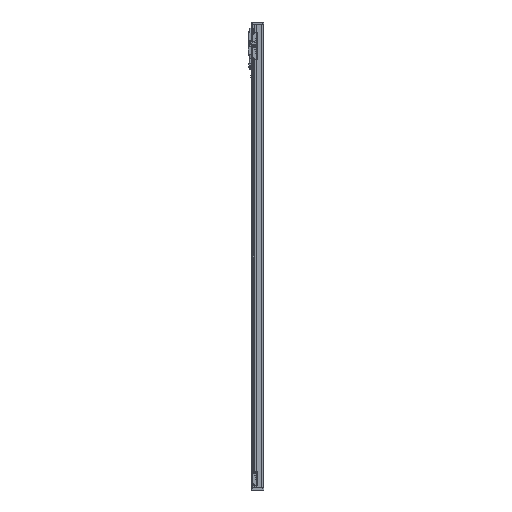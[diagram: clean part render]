
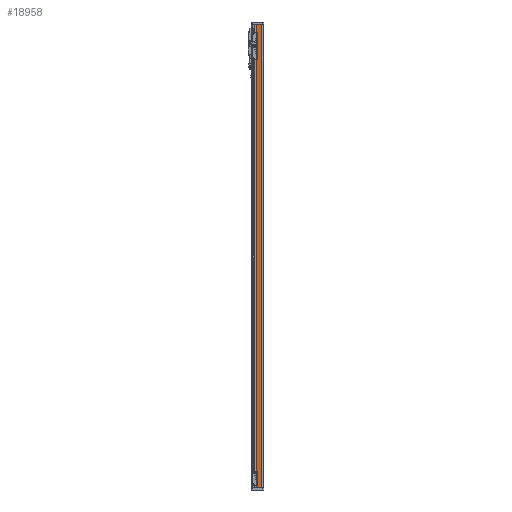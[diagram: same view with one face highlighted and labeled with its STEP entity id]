
A CAD part, left-side view. The second image highlights one B-rep face of the part: STEP entity #18958.
In plain terms, the highlighted planar face has unit normal (-1, 0, 0).
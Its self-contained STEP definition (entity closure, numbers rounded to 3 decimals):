
#152 = PLANE('',#153);
#153 = AXIS2_PLACEMENT_3D('',#154,#155,#156);
#154 = CARTESIAN_POINT('',(0.,0.,900.));
#155 = DIRECTION('',(-0.,0.,1.));
#156 = DIRECTION('',(1.,0.,0.));
#817 = PLANE('',#818);
#818 = AXIS2_PLACEMENT_3D('',#819,#820,#821);
#819 = CARTESIAN_POINT('',(0.,0.,-900.));
#820 = DIRECTION('',(-0.,0.,1.));
#821 = DIRECTION('',(1.,0.,0.));
#10703 = PLANE('',#10704);
#10704 = AXIS2_PLACEMENT_3D('',#10705,#10706,#10707);
#10705 = CARTESIAN_POINT('',(-27.5,-17.,895.));
#10706 = DIRECTION('',(-0.707,0.707,0.));
#10707 = DIRECTION('',(0.,0.,1.));
#11105 = VERTEX_POINT('',#11106);
#11106 = CARTESIAN_POINT('',(-27.1,4.6,900.));
#11120 = PLANE('',#11121);
#11121 = AXIS2_PLACEMENT_3D('',#11122,#11123,#11124);
#11122 = CARTESIAN_POINT('',(-27.1,4.6,895.));
#11123 = DIRECTION('',(-0.707,-0.707,0.));
#11124 = DIRECTION('',(0.,0.,1.));
#11132 = EDGE_CURVE('',#11105,#11133,#11135,.T.);
#11133 = VERTEX_POINT('',#11134);
#11134 = CARTESIAN_POINT('',(-27.1,-16.6,900.));
#11135 = SURFACE_CURVE('',#11136,(#11140,#11147),.PCURVE_S1.);
#11136 = LINE('',#11137,#11138);
#11137 = CARTESIAN_POINT('',(-27.1,8.,900.));
#11138 = VECTOR('',#11139,1.);
#11139 = DIRECTION('',(0.,-1.,0.));
#11140 = PCURVE('',#152,#11141);
#11141 = DEFINITIONAL_REPRESENTATION('',(#11142),#11146);
#11142 = LINE('',#11143,#11144);
#11143 = CARTESIAN_POINT('',(-27.1,8.));
#11144 = VECTOR('',#11145,1.);
#11145 = DIRECTION('',(0.,-1.));
#11146 = ( GEOMETRIC_REPRESENTATION_CONTEXT(2) 
PARAMETRIC_REPRESENTATION_CONTEXT() REPRESENTATION_CONTEXT('2D SPACE',''
  ) );
#11147 = PCURVE('',#11148,#11153);
#11148 = PLANE('',#11149);
#11149 = AXIS2_PLACEMENT_3D('',#11150,#11151,#11152);
#11150 = CARTESIAN_POINT('',(-27.1,8.,895.));
#11151 = DIRECTION('',(1.,0.,0.));
#11152 = DIRECTION('',(0.,1.,0.));
#11153 = DEFINITIONAL_REPRESENTATION('',(#11154),#11158);
#11154 = LINE('',#11155,#11156);
#11155 = CARTESIAN_POINT('',(0.,5.));
#11156 = VECTOR('',#11157,1.);
#11157 = DIRECTION('',(-1.,0.));
#11158 = ( GEOMETRIC_REPRESENTATION_CONTEXT(2) 
PARAMETRIC_REPRESENTATION_CONTEXT() REPRESENTATION_CONTEXT('2D SPACE',''
  ) );
#12172 = VERTEX_POINT('',#12173);
#12173 = CARTESIAN_POINT('',(-27.1,-16.6,-900.));
#12194 = EDGE_CURVE('',#12172,#12195,#12197,.T.);
#12195 = VERTEX_POINT('',#12196);
#12196 = CARTESIAN_POINT('',(-27.1,4.6,-900.));
#12197 = SURFACE_CURVE('',#12198,(#12202,#12209),.PCURVE_S1.);
#12198 = LINE('',#12199,#12200);
#12199 = CARTESIAN_POINT('',(-27.1,0.,-900.));
#12200 = VECTOR('',#12201,1.);
#12201 = DIRECTION('',(0.,1.,0.));
#12202 = PCURVE('',#817,#12203);
#12203 = DEFINITIONAL_REPRESENTATION('',(#12204),#12208);
#12204 = LINE('',#12205,#12206);
#12205 = CARTESIAN_POINT('',(-27.1,0.));
#12206 = VECTOR('',#12207,1.);
#12207 = DIRECTION('',(0.,1.));
#12208 = ( GEOMETRIC_REPRESENTATION_CONTEXT(2) 
PARAMETRIC_REPRESENTATION_CONTEXT() REPRESENTATION_CONTEXT('2D SPACE',''
  ) );
#12209 = PCURVE('',#11148,#12210);
#12210 = DEFINITIONAL_REPRESENTATION('',(#12211),#12215);
#12211 = LINE('',#12212,#12213);
#12212 = CARTESIAN_POINT('',(-8.,-1795.));
#12213 = VECTOR('',#12214,1.);
#12214 = DIRECTION('',(1.,0.));
#12215 = ( GEOMETRIC_REPRESENTATION_CONTEXT(2) 
PARAMETRIC_REPRESENTATION_CONTEXT() REPRESENTATION_CONTEXT('2D SPACE',''
  ) );
#18958 = ADVANCED_FACE('',(#18959),#11148,.F.);
#18959 = FACE_BOUND('',#18960,.T.);
#18960 = EDGE_LOOP('',(#18961,#18962,#18983,#18984));
#18961 = ORIENTED_EDGE('',*,*,#11132,.F.);
#18962 = ORIENTED_EDGE('',*,*,#18963,.T.);
#18963 = EDGE_CURVE('',#11105,#12195,#18964,.T.);
#18964 = SURFACE_CURVE('',#18965,(#18969,#18976),.PCURVE_S1.);
#18965 = LINE('',#18966,#18967);
#18966 = CARTESIAN_POINT('',(-27.1,4.6,-895.));
#18967 = VECTOR('',#18968,1.);
#18968 = DIRECTION('',(0.,0.,-1.));
#18969 = PCURVE('',#11148,#18970);
#18970 = DEFINITIONAL_REPRESENTATION('',(#18971),#18975);
#18971 = LINE('',#18972,#18973);
#18972 = CARTESIAN_POINT('',(-3.4,-1790.));
#18973 = VECTOR('',#18974,1.);
#18974 = DIRECTION('',(0.,-1.));
#18975 = ( GEOMETRIC_REPRESENTATION_CONTEXT(2) 
PARAMETRIC_REPRESENTATION_CONTEXT() REPRESENTATION_CONTEXT('2D SPACE',''
  ) );
#18976 = PCURVE('',#11120,#18977);
#18977 = DEFINITIONAL_REPRESENTATION('',(#18978),#18982);
#18978 = LINE('',#18979,#18980);
#18979 = CARTESIAN_POINT('',(-1790.,0.));
#18980 = VECTOR('',#18981,1.);
#18981 = DIRECTION('',(-1.,0.));
#18982 = ( GEOMETRIC_REPRESENTATION_CONTEXT(2) 
PARAMETRIC_REPRESENTATION_CONTEXT() REPRESENTATION_CONTEXT('2D SPACE',''
  ) );
#18983 = ORIENTED_EDGE('',*,*,#12194,.F.);
#18984 = ORIENTED_EDGE('',*,*,#18985,.T.);
#18985 = EDGE_CURVE('',#12172,#11133,#18986,.T.);
#18986 = SURFACE_CURVE('',#18987,(#18991,#18998),.PCURVE_S1.);
#18987 = LINE('',#18988,#18989);
#18988 = CARTESIAN_POINT('',(-27.1,-16.6,895.));
#18989 = VECTOR('',#18990,1.);
#18990 = DIRECTION('',(0.,0.,1.));
#18991 = PCURVE('',#11148,#18992);
#18992 = DEFINITIONAL_REPRESENTATION('',(#18993),#18997);
#18993 = LINE('',#18994,#18995);
#18994 = CARTESIAN_POINT('',(-24.6,0.));
#18995 = VECTOR('',#18996,1.);
#18996 = DIRECTION('',(0.,1.));
#18997 = ( GEOMETRIC_REPRESENTATION_CONTEXT(2) 
PARAMETRIC_REPRESENTATION_CONTEXT() REPRESENTATION_CONTEXT('2D SPACE',''
  ) );
#18998 = PCURVE('',#10703,#18999);
#18999 = DEFINITIONAL_REPRESENTATION('',(#19000),#19004);
#19000 = LINE('',#19001,#19002);
#19001 = CARTESIAN_POINT('',(0.,0.566));
#19002 = VECTOR('',#19003,1.);
#19003 = DIRECTION('',(1.,0.));
#19004 = ( GEOMETRIC_REPRESENTATION_CONTEXT(2) 
PARAMETRIC_REPRESENTATION_CONTEXT() REPRESENTATION_CONTEXT('2D SPACE',''
  ) );
